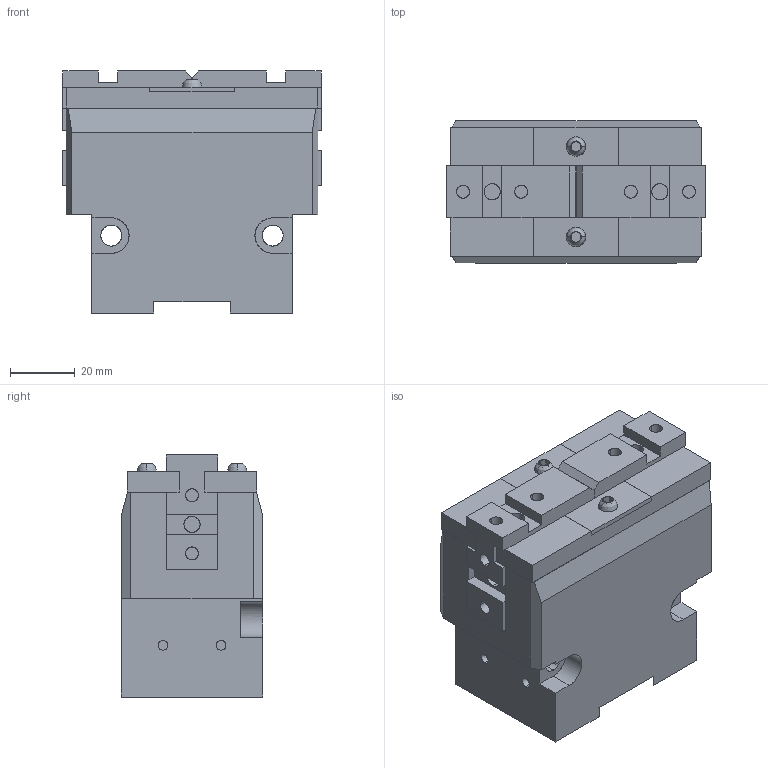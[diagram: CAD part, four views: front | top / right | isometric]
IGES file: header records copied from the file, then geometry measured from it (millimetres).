
Global section: file name: C:\Documents and Settings\Administrateur\Mes documents\OPE-80-X-CLOSED.igs; native system: AutoCAD-16.0s (LMS Tech) (Microsoft Windows NT Version 5.1 (x86)); preprocessor: Autodesk IGES Translator Mechanical Desktop.R7.0.43.0 (Mar 18 2003) from Autodesk, Inc.; date: 20050628.200747; units: millimetre
Bounding box: 80 x 44 x 75 mm (x, y, z)
Surface area: 51395.4 mm2 (no closed solid volume)
Topology: 0 solids, 0 shells, 245 faces, 2548 edges, 2633 vertices
Faces by surface type: bspline 245
